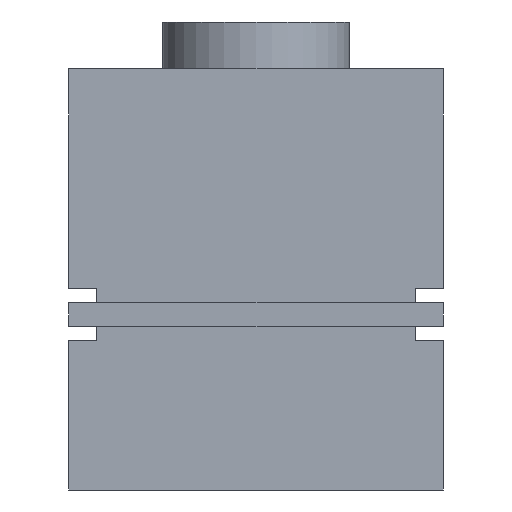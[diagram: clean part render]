
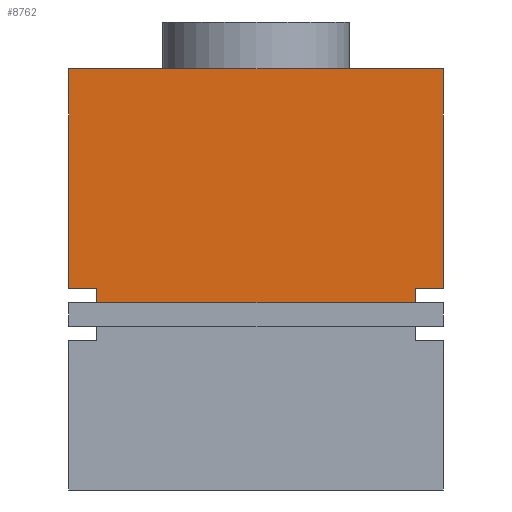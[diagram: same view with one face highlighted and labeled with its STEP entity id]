
A CAD part, left-side view. The second image highlights one B-rep face of the part: STEP entity #8762.
In plain terms, the highlighted planar face has unit normal (-1, 0, 0).
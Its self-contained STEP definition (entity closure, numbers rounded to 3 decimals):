
#1465=FACE_OUTER_BOUND('',#2032,.T.);
#2032=EDGE_LOOP('',(#7418,#7419,#7420,#7421,#7422,#7423,#7424,#7425));
#2680=LINE('',#17365,#3375);
#2690=LINE('',#17390,#3385);
#2694=LINE('',#17397,#3389);
#2696=LINE('',#17402,#3391);
#2699=LINE('',#17407,#3394);
#2703=LINE('',#17418,#3398);
#2704=LINE('',#17427,#3399);
#2723=LINE('',#17506,#3418);
#3375=VECTOR('',#11648,10.);
#3385=VECTOR('',#11666,10.);
#3389=VECTOR('',#11672,10.);
#3391=VECTOR('',#11676,10.);
#3394=VECTOR('',#11681,10.);
#3398=VECTOR('',#11693,10.);
#3399=VECTOR('',#11704,10.);
#3418=VECTOR('',#11799,10.);
#4167=VERTEX_POINT('',#17362);
#4168=VERTEX_POINT('',#17364);
#4178=VERTEX_POINT('',#17387);
#4179=VERTEX_POINT('',#17389);
#4181=VERTEX_POINT('',#17395);
#4182=VERTEX_POINT('',#17399);
#4183=VERTEX_POINT('',#17401);
#4184=VERTEX_POINT('',#17405);
#5260=EDGE_CURVE('',#4168,#4167,#2680,.T.);
#5272=EDGE_CURVE('',#4179,#4178,#2690,.T.);
#5276=EDGE_CURVE('',#4178,#4181,#2694,.T.);
#5278=EDGE_CURVE('',#4183,#4182,#2696,.T.);
#5281=EDGE_CURVE('',#4182,#4184,#2699,.T.);
#5287=EDGE_CURVE('',#4179,#4184,#2703,.T.);
#5292=EDGE_CURVE('',#4167,#4183,#2704,.T.);
#5326=EDGE_CURVE('',#4181,#4168,#2723,.T.);
#7418=ORIENTED_EDGE('',*,*,#5276,.T.);
#7419=ORIENTED_EDGE('',*,*,#5326,.T.);
#7420=ORIENTED_EDGE('',*,*,#5260,.T.);
#7421=ORIENTED_EDGE('',*,*,#5292,.T.);
#7422=ORIENTED_EDGE('',*,*,#5278,.T.);
#7423=ORIENTED_EDGE('',*,*,#5281,.T.);
#7424=ORIENTED_EDGE('',*,*,#5287,.F.);
#7425=ORIENTED_EDGE('',*,*,#5272,.T.);
#8322=PLANE('',#9743);
#8762=ADVANCED_FACE('',(#1465),#8322,.T.);
#9743=AXIS2_PLACEMENT_3D('',#17505,#11797,#11798);
#11648=DIRECTION('',(0.,1.,0.));
#11666=DIRECTION('',(0.,0.,1.));
#11672=DIRECTION('',(0.,-1.,0.));
#11676=DIRECTION('',(0.,-1.,0.));
#11681=DIRECTION('',(0.,0.,-1.));
#11693=DIRECTION('',(0.,1.,0.));
#11704=DIRECTION('',(0.,0.,-1.));
#11797=DIRECTION('center_axis',(-1.,0.,0.));
#11798=DIRECTION('ref_axis',(0.,0.,1.));
#11799=DIRECTION('',(0.,0.,1.));
#17362=CARTESIAN_POINT('',(-32.425,40.,30.514));
#17364=CARTESIAN_POINT('',(-32.425,-40.,30.514));
#17365=CARTESIAN_POINT('',(-32.425,-40.,30.514));
#17387=CARTESIAN_POINT('',(-32.425,-34.,-16.486));
#17389=CARTESIAN_POINT('',(-32.425,-34.,-19.486));
#17390=CARTESIAN_POINT('',(-32.425,-34.,-15.486));
#17395=CARTESIAN_POINT('',(-32.425,-40.,-16.486));
#17397=CARTESIAN_POINT('',(-32.425,-20.,-16.486));
#17399=CARTESIAN_POINT('',(-32.425,34.,-16.486));
#17401=CARTESIAN_POINT('',(-32.425,40.,-16.486));
#17402=CARTESIAN_POINT('',(-32.425,17.,-16.486));
#17405=CARTESIAN_POINT('',(-32.425,34.,-19.486));
#17407=CARTESIAN_POINT('',(-32.425,34.,-16.986));
#17418=CARTESIAN_POINT('',(-32.425,0.,-19.486));
#17427=CARTESIAN_POINT('',(-32.425,40.,30.514));
#17505=CARTESIAN_POINT('Origin',(-32.425,0.,-14.486));
#17506=CARTESIAN_POINT('',(-32.425,-40.,-59.486));
